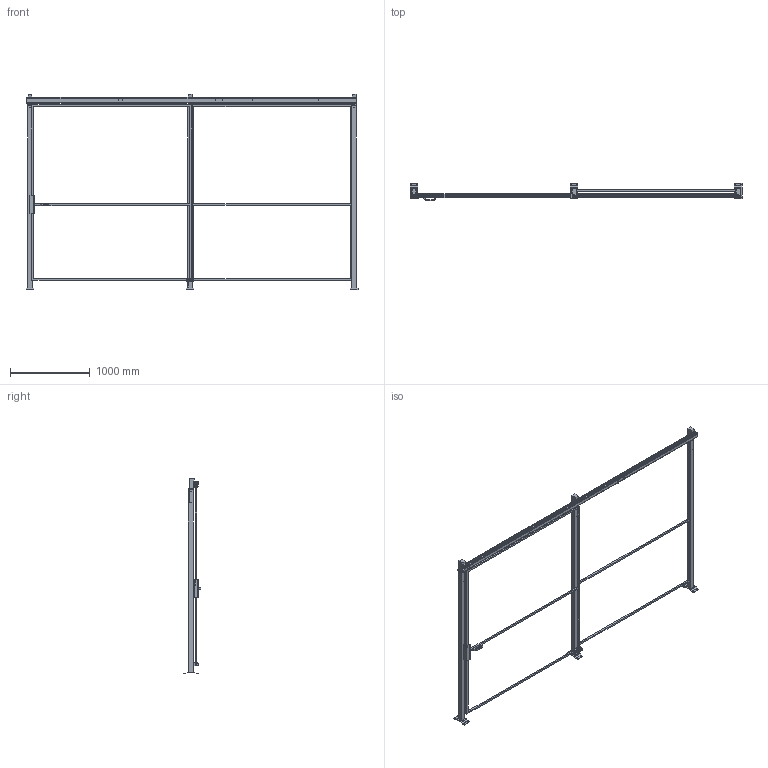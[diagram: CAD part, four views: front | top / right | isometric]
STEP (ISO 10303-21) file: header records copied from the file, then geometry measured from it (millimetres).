
FILE_DESCRIPTION(/* description */ (''),/* implementation_level */ '2;1');
FILE_NAME(/* name */ 'C:\SafeGuarding\ELABORATI\VZOR§POSUVNE_2650x2520_2025-02-13-08-58-51.stp',/* time_stamp */ '2025-02-13T08:58:53+01:00',/* author */ ('admin'),/* organization */ (''),/* preprocessor_version */ 'ST-DEVELOPER v18.1',/* originating_system */ 'AutoCAD Mechanical',/* authorisation */ '');
FILE_SCHEMA (('AUTOMOTIVE_DESIGN { 1 0 10303 214 3 1 1 }'));
Length unit declared in the file: millimetre
Products named in the file (4): Product; VFPA.REPE2020002200; DATI_PORTA; P_VFMA.ME60SDU.2320
Assembly tree (6 placements, depth 2):
  Product
    P_VFMA.ME60SDU.2320  x3
    VFPA.REPE2020002200  x2
    DATI_PORTA
Bounding box: 4170 x 219.95 x 2454 mm (x, y, z)
Volume: 43004522.2 mm3; surface area: 6105888.4 mm2
Topology: 29 solids, 40 shells, 518 faces, 1800 edges, 1744 vertices
Faces by surface type: plane 474, cylinder 42, sphere 2
Full cylindrical faces by diameter (mm): 11 x12, 12 x2, 15 x4, 40 x4
Entity records: 14254 total; most frequent: CARTESIAN_POINT 3014, DIRECTION 2150, ORIENTED_EDGE 2094, EDGE_CURVE 1096, LINE 1082, VECTOR 1082, VERTEX_POINT 772, AXIS2_PLACEMENT_3D 534
